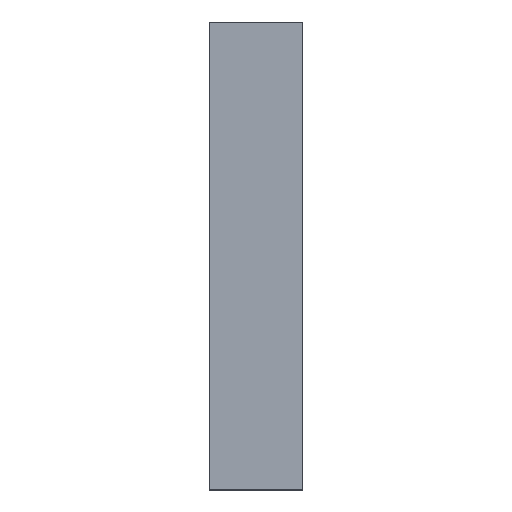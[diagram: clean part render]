
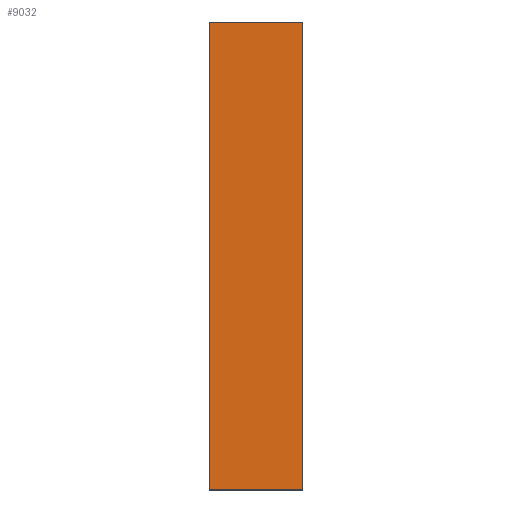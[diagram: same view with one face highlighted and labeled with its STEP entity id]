
A CAD part, left-side view. The second image highlights one B-rep face of the part: STEP entity #9032.
In plain terms, the highlighted planar face has unit normal (-1, 0, 0).
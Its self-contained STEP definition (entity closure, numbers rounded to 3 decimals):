
#1570 = DIRECTION ( 'NONE',  ( 0., -1., 0. ) ) ;
#1571 = VECTOR ( 'NONE', #1570, 1000. ) ;
#1572 = CARTESIAN_POINT ( 'NONE',  ( -20., 8., 20. ) ) ;
#1573 = LINE ( 'NONE', #1572, #1571 ) ;
#1574 = CARTESIAN_POINT ( 'NONE',  ( -20., 8., 20. ) ) ;
#1585 = CARTESIAN_POINT ( 'NONE',  ( -20., 0., 20. ) ) ;
#2865 = VERTEX_POINT ( 'NONE', #1585 ) ;
#2872 = VERTEX_POINT ( 'NONE', #1574 ) ;
#2874 = EDGE_CURVE ( 'NONE', #2872, #2865, #1573, .T. ) ;
#9032 = ADVANCED_FACE ( 'NONE', ( #12566 ), #12626, .F. ) ;
#9048 = EDGE_LOOP ( 'NONE', ( #9050, #9059, #9060, #9066 ) ) ;
#9050 = ORIENTED_EDGE ( 'NONE', *, *, #9051, .T. ) ;
#9051 = EDGE_CURVE ( 'NONE', #9053, #2865, #12597, .T. ) ;
#9053 = VERTEX_POINT ( 'NONE', #12655 ) ;
#9059 = ORIENTED_EDGE ( 'NONE', *, *, #2874, .F. ) ;
#9060 = ORIENTED_EDGE ( 'NONE', *, *, #9062, .F. ) ;
#9062 = EDGE_CURVE ( 'NONE', #9064, #2872, #12631, .T. ) ;
#9064 = VERTEX_POINT ( 'NONE', #12627 ) ;
#9066 = ORIENTED_EDGE ( 'NONE', *, *, #9070, .T. ) ;
#9070 = EDGE_CURVE ( 'NONE', #9064, #9053, #12674, .T. ) ;
#12566 = FACE_OUTER_BOUND ( 'NONE', #9048, .T. ) ;
#12595 = VECTOR ( 'NONE', #12657, 1000. ) ;
#12596 = CARTESIAN_POINT ( 'NONE',  ( -20., 0., -20. ) ) ;
#12597 = LINE ( 'NONE', #12596, #12595 ) ;
#12622 = DIRECTION ( 'NONE',  ( 0., 0., -1. ) ) ;
#12623 = DIRECTION ( 'NONE',  ( 1., 0., 0. ) ) ;
#12624 = CARTESIAN_POINT ( 'NONE',  ( -20., 8., -20. ) ) ;
#12625 = AXIS2_PLACEMENT_3D ( 'NONE', #12624, #12623, #12622 ) ;
#12626 = PLANE ( 'NONE',  #12625 ) ;
#12627 = CARTESIAN_POINT ( 'NONE',  ( -20., 8., -20. ) ) ;
#12628 = DIRECTION ( 'NONE',  ( 0., 0., 1. ) ) ;
#12629 = VECTOR ( 'NONE', #12628, 1000. ) ;
#12630 = CARTESIAN_POINT ( 'NONE',  ( -20., 8., -20. ) ) ;
#12631 = LINE ( 'NONE', #12630, #12629 ) ;
#12655 = CARTESIAN_POINT ( 'NONE',  ( -20., 0., -20. ) ) ;
#12657 = DIRECTION ( 'NONE',  ( 0., 0., 1. ) ) ;
#12671 = DIRECTION ( 'NONE',  ( 0., -1., 0. ) ) ;
#12672 = VECTOR ( 'NONE', #12671, 1000. ) ;
#12673 = CARTESIAN_POINT ( 'NONE',  ( -20., 8., -20. ) ) ;
#12674 = LINE ( 'NONE', #12673, #12672 ) ;
